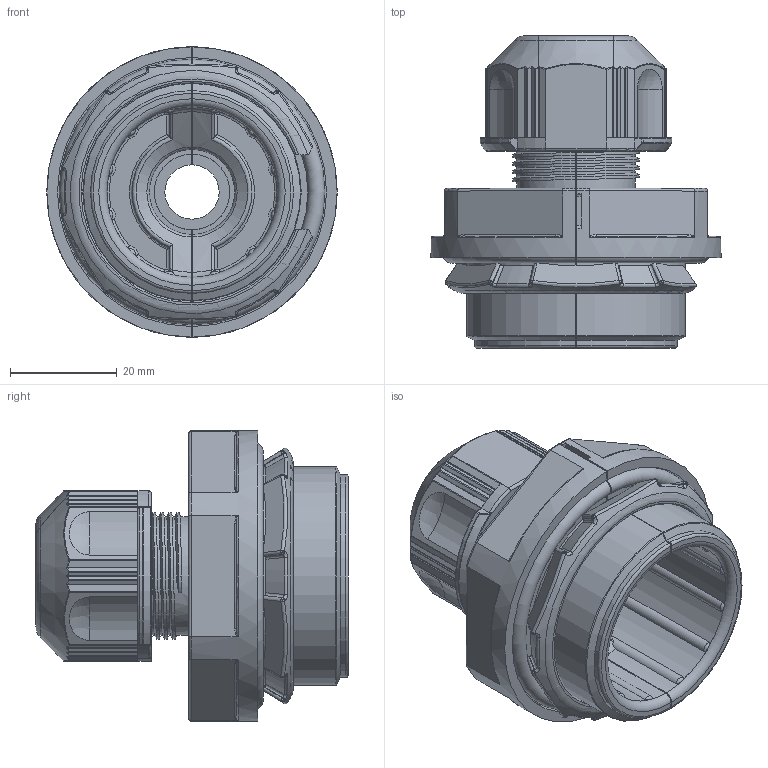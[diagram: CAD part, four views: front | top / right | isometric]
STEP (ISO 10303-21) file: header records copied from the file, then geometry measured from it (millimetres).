
FILE_DESCRIPTION(('Creo Elements/Direct Modeling STEP Export'),'2;1');
FILE_NAME('20140626_01.stp','2014-06-26T16:25:04',(''),(''),'Creo Elements/Direct Modeling STEP processor for AP214 (Solid Model)','Creo Elements/Direct Modeling 18.1B 29-Sep-2012 (C) Parametric Technology GmbH','');
FILE_SCHEMA(('AUTOMOTIVE_DESIGN { 1 0 10303 214 1 1 1 1 }'));
Length unit declared in the file: millimetre
Products named in the file (6): OA-WH36-06; ゴムブッシュB; ロックナット
Assembly tree (3 placements, depth 2):
  OA-WH36-06
    OA-WH36-06
  ゴムブッシュB
    ゴムブッシュB
  ロックナット
    ロックナット
Bounding box: 54.5 x 58.7 x 54.5 mm (x, y, z)
Volume: 46842.5 mm3; surface area: 23168.6 mm2
Topology: 3 solids, 3 shells, 721 faces, 1893 edges, 1177 vertices
Faces by surface type: bspline 255, cylinder 185, plane 166, torus 94, cone 18, revolution 3
Entity records: 43007 total; most frequent: CARTESIAN_POINT 28215, ORIENTED_EDGE 3782, DIRECTION 2014, EDGE_CURVE 1891, VERTEX_POINT 1177, AXIS2_PLACEMENT_3D 745, EDGE_LOOP 728, FACE_OUTER_BOUND 721
